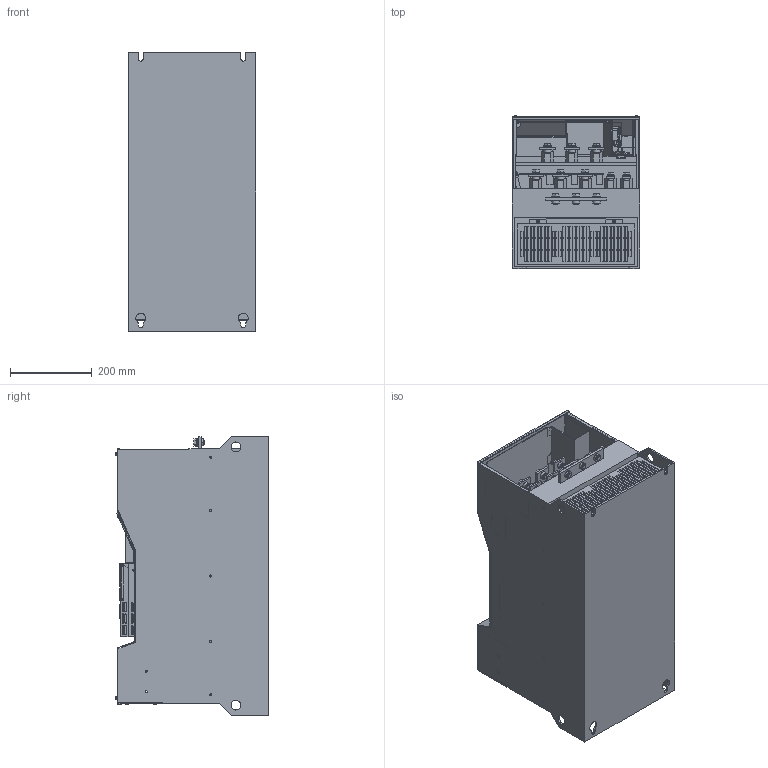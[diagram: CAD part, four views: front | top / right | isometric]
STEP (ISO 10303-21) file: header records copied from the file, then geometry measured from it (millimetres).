
FILE_DESCRIPTION(('STEP AP203'),'1');
FILE_NAME('s6571368.stp','2022-04-13T00:37:07',(' '),(' '),'Spatial InterOp 3D',' ',' ');
FILE_SCHEMA(('CONFIG_CONTROL_DESIGN'));
Length unit declared in the file: metre
Products named in the file (40): s6571368; VFAS3J_DRIVE_J10; S6571331_000; VFAS3J_DISPLAY; VFAS3J_CTR_TERM; VFAS3J_DISPLAY_COVER; Cable_CLAMP; M10X20; M10X202; M10X203; M10X204; M10X205; M10X206; M10X207; M10X208; M10X209; M8X20; M8X202; M12_W-M; M12X35; M12_W-M2; M12_SW; M12_HN; M12_W-M3; M12X352; M12_W-M4; M12_SW2; M12_HN2; M12_W-M5; M12X353; M12_W-M6; M12_SW3; M12_HN3; M8_NUT_WITH_WASHER; VFAS3J_GROUNDING_SWITCHING_BAR; VFAS3J_CABLE_CHANNEL_J10; VFAS3J_DC_TB_COVER_J10; VFAS3J_TERMINAL_COVER_J10; VFAS3J_FRONT_COVER_J10; VFAS3J_CHANNEL_COVER_HHP
Assembly tree (39 placements, depth 2):
  s6571368
    VFAS3J_DRIVE_J10
    S6571331_000
    VFAS3J_DISPLAY
    VFAS3J_CTR_TERM
    VFAS3J_DISPLAY_COVER
    Cable_CLAMP
    M10X20
    M10X202
    M10X203
    M10X204
    M10X205
    M10X206
    M10X207
    M10X208
    M10X209
    M8X20
    M8X202
    M12_W-M
    M12X35
    M12_W-M2
    M12_SW
    M12_HN
    M12_W-M3
    M12X352
    M12_W-M4
    M12_SW2
    M12_HN2
    M12_W-M5
    M12X353
    M12_W-M6
    M12_SW3
    M12_HN3
    M8_NUT_WITH_WASHER
    VFAS3J_GROUNDING_SWITCHING_BAR
    VFAS3J_CABLE_CHANNEL_J10
    VFAS3J_DC_TB_COVER_J10
    VFAS3J_TERMINAL_COVER_J10
    VFAS3J_FRONT_COVER_J10
    VFAS3J_CHANNEL_COVER_HHP
Bounding box: 310 x 374.4 x 680 mm (x, y, z)
Volume: 52093190 mm3; surface area: 2575560.3 mm2
Topology: 73 solids, 77 shells, 6352 faces, 16906 edges, 11126 vertices
Faces by surface type: plane 5122, cylinder 960, torus 142, sphere 72, cone 56
Entity records: 198687 total; most frequent: CARTESIAN_POINT 35248, ORIENTED_EDGE 33668, DIRECTION 32300, EDGE_CURVE 16834, LINE 13966, VECTOR 13966, VERTEX_POINT 11126, AXIS2_PLACEMENT_3D 9167
